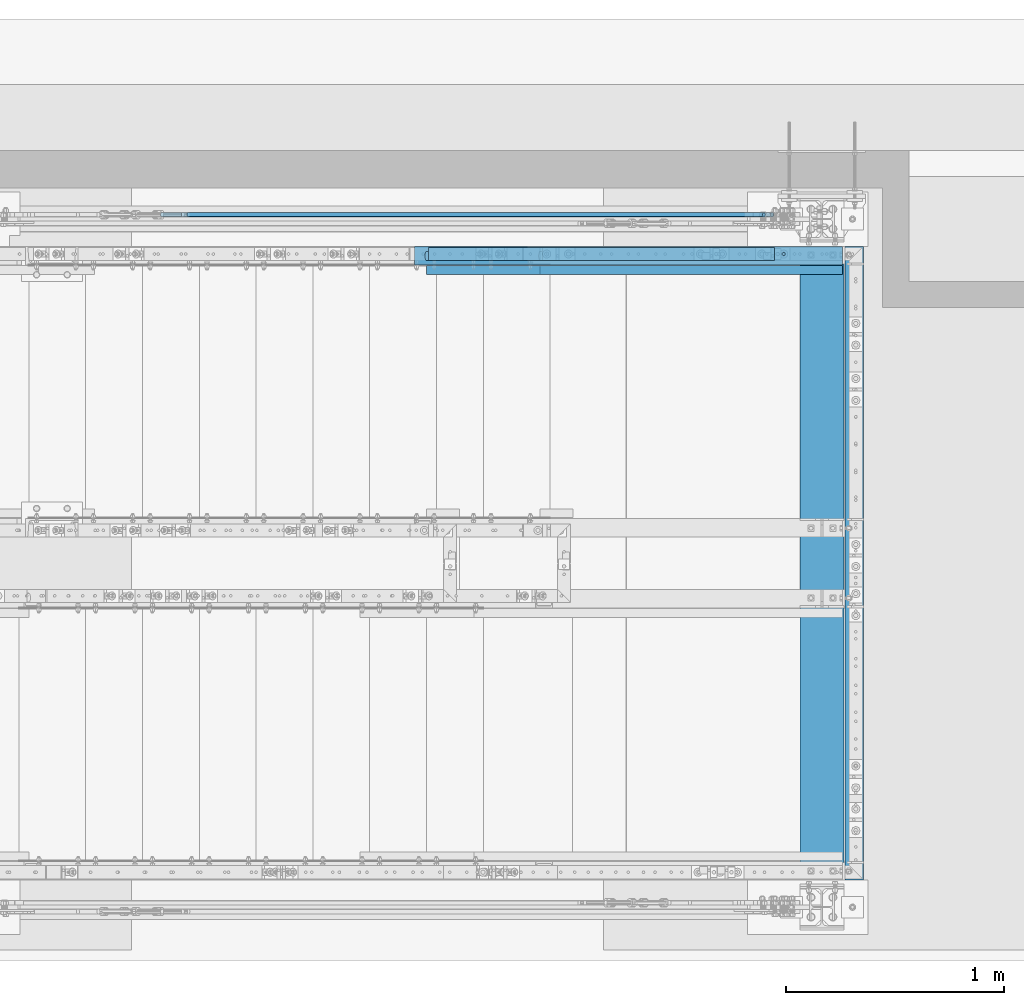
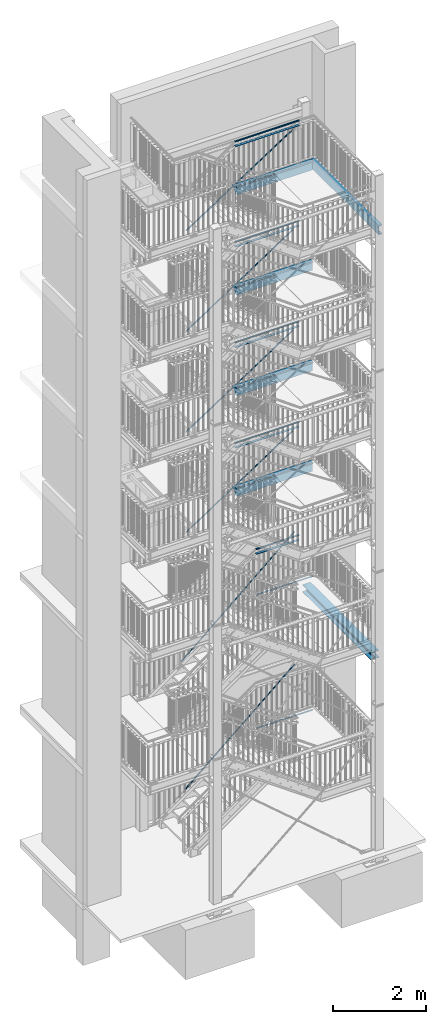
# One storey, part 130 of 825: 22 beams, 6 members, 46 openings.
"""IFC2X3 building model written with IfcOpenShell, lengths in millimetres."""

from ifc_helpers import new_model, entity, si_unit, converted_unit, frame, frame_2d, origin, origin_with_axes, origin_2d, origin_2d_with_axis, place, context, project, spatial, rectangle, circle, hollow_circle, i_section, l_section, u_section, extrude, clip, halfspace, material, element, save


model = new_model("IFC2X3")

# Units and contexts
model_context = context("Model", 3, precision=1e-09, world=origin_with_axes())
ifc_project = project(units=[si_unit("LENGTHUNIT", "METRE", prefix="MILLI"), si_unit("AREAUNIT", "SQUARE_METRE"), si_unit("VOLUMEUNIT", "CUBIC_METRE"), converted_unit("PLANEANGLEUNIT", "DEGREE", entity("IfcPlaneAngleMeasure", 0.01745329), si_unit("PLANEANGLEUNIT", "RADIAN"), dimensions=[0, 0, 0, 0, 0, 0, 0])], contexts=[model_context])

# Site, building, storey
site_placement = place(None, origin_with_axes())
site = spatial("IfcSite", under=ifc_project, at=site_placement, Name="Cnopf'sche Kinderklinik", CompositionType="ELEMENT")
building_placement = place(site_placement, origin_with_axes())
building = spatial("IfcBuilding", under=site, at=building_placement, Name="Struktur 1", CompositionType="ELEMENT")
storey_placement = place(building_placement, origin_with_axes())
storey = spatial("IfcBuildingStorey", under=building, at=storey_placement, Name="Default Storey", CompositionType="ELEMENT", Elevation=0.0)

# Beam
ifc_material = material(Name="S235JR")
beam_1_placement = place(None, frame((7056.713402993, 7292.536971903, 11254.3000003), z_axis=(-1.0, 0.0, 0.0), x_axis=(0.0, 0.0, -1.0)))
element("IfcBeam", 1, at=beam_1_placement, inside=storey, material=ifc_material, Name="TopLanding#3", ObjectType="TopLanding#3", context=model_context, shape_type="SweptSolid", body=[
    extrude(l_section(Depth=40.0, Width=40.0, Thickness=4.0, FilletRadius=6.0, EdgeRadius=3.0, at=frame_2d((8.8, 8.8))), origin(), (0.0, 0.0, -1.0), 1905.0),
])

# Beam, openings
beam_2_placement = place(None, frame((6741.392105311, 7329.036971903, 11145.5000003), z_axis=(1.0, 0.0, 0.0), x_axis=(0.0, 1.0, 0.0)))
beam_2 = element("IfcBeam", 2, at=beam_2_placement, inside=storey, material=ifc_material, Name="Stringer", ObjectType="Stringer", context=model_context, shape_type="Clipping", body=[
    clip(clip(extrude(u_section(Depth=240.0, FlangeWidth=85.0, WebThickness=9.5, FlangeThickness=13.0, FilletRadius=13.0, EdgeRadius=6.5, FlangeSlope=4.574, at=frame_2d((20.2, 0.0))), origin(), (0.0, 0.0, 1.0), 2477.625068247), halfspace(frame((-7329.036971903, -11145.5000003, 2220.320297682), z_axis=(0.0, 0.0, -1.0), x_axis=(-1.0, 0.0, 0.0)), True)), halfspace(frame((-7329.036971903, -8031.601758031, 2894.216134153), z_axis=(0.0, 0.307506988, 0.951545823), x_axis=(1.0, 0.0, 0.0)), True)),
])
opening_1_placement = place(beam_2_placement, frame((27.7, 120.5, 1943.320869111), z_axis=(0.0, 1.0, 0.0), x_axis=(-1.0, 0.0, 0.0)))
element("IfcOpeningElement", 3, at=opening_1_placement, cuts=beam_2, ObjectType="Opening", context=model_context, shape_type="SweptSolid", body=[
    extrude(circle(Radius=7.001, at=frame_2d((0.0, 7.001), x_axis=(1.0, 0.0))), origin(), (0.0, 0.0, -1.0), 14.0),
])
opening_2_placement = place(beam_2_placement, frame((27.7, 120.5, 1843.320869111), z_axis=(0.0, 1.0, 0.0), x_axis=(-1.0, 0.0, 0.0)))
element("IfcOpeningElement", 4, at=opening_2_placement, cuts=beam_2, ObjectType="Opening", context=model_context, shape_type="SweptSolid", body=[
    extrude(circle(Radius=7.001, at=frame_2d((0.0, 7.001), x_axis=(1.0, 0.0))), origin(), (0.0, 0.0, -1.0), 14.0),
])
opening_3_placement = place(beam_2_placement, frame((27.7, 120.5, 958.320726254), z_axis=(0.0, 1.0, 0.0), x_axis=(-1.0, 0.0, 0.0)))
element("IfcOpeningElement", 5, at=opening_3_placement, cuts=beam_2, ObjectType="Opening", context=model_context, shape_type="SweptSolid", body=[
    extrude(circle(Radius=7.001, at=frame_2d((0.0, 7.001), x_axis=(1.0, 0.0))), origin(), (0.0, 0.0, -1.0), 14.0),
])
opening_4_placement = place(beam_2_placement, frame((27.7, 120.5, 858.320726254), z_axis=(0.0, 1.0, 0.0), x_axis=(-1.0, 0.0, 0.0)))
element("IfcOpeningElement", 6, at=opening_4_placement, cuts=beam_2, ObjectType="Opening", context=model_context, shape_type="SweptSolid", body=[
    extrude(circle(Radius=7.001, at=frame_2d((0.0, 7.001), x_axis=(1.0, 0.0))), origin(), (0.0, 0.0, -1.0), 14.0),
])
opening_5_placement = place(beam_2_placement, frame((22.7, -120.5, 2075.321297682), z_axis=(0.0, 1.0, 0.0), x_axis=(1.0, 0.0, 0.0)))
element("IfcOpeningElement", 7, at=opening_5_placement, cuts=beam_2, ObjectType="Opening", context=model_context, shape_type="SweptSolid", body=[
    extrude(circle(Radius=7.001, at=origin_2d_with_axis()), origin(), (0.0, 0.0, 1.0), 14.0),
])
opening_6_placement = place(beam_2_placement, frame((22.7, -120.5, 2175.321297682), z_axis=(0.0, 1.0, 0.0), x_axis=(1.0, 0.0, 0.0)))
element("IfcOpeningElement", 8, at=opening_6_placement, cuts=beam_2, ObjectType="Opening", context=model_context, shape_type="SweptSolid", body=[
    extrude(circle(Radius=7.001, at=origin_2d_with_axis()), origin(), (0.0, 0.0, 1.0), 14.0),
])

beam_3_placement = place(None, frame((6741.459458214, 7329.036971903, 8516.0), z_axis=(1.0, 0.0, 0.0), x_axis=(0.0, 1.0, 0.0)))
beam_3 = element("IfcBeam", 9, at=beam_3_placement, inside=storey, material=ifc_material, Name="Stringer", ObjectType="Stringer", context=model_context, shape_type="Clipping", body=[
    clip(clip(extrude(u_section(Depth=240.0, FlangeWidth=85.0, WebThickness=9.5, FlangeThickness=13.0, FilletRadius=13.0, EdgeRadius=6.5, FlangeSlope=4.574, at=frame_2d((20.2, 0.0))), origin(), (0.0, 0.0, 1.0), 2477.557715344), halfspace(frame((-7329.036971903, -8516.0, 2220.25294478), z_axis=(0.0, 0.0, -1.0), x_axis=(-1.0, 0.0, 0.0)), True)), halfspace(frame((-7329.036971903, -5645.874307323, 2126.143079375), z_axis=(0.0, 0.307936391, 0.951406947), x_axis=(1.0, 0.0, 0.0)), True)),
])
opening_7_placement = place(beam_3_placement, frame((27.7, 120.5, 1943.253516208), z_axis=(0.0, 1.0, 0.0), x_axis=(-1.0, 0.0, 0.0)))
element("IfcOpeningElement", 10, at=opening_7_placement, cuts=beam_3, ObjectType="Opening", context=model_context, shape_type="SweptSolid", body=[
    extrude(circle(Radius=7.001, at=frame_2d((0.0, 7.001), x_axis=(1.0, 0.0))), origin(), (0.0, 0.0, -1.0), 14.0),
])
opening_8_placement = place(beam_3_placement, frame((27.7, 120.5, 1843.253516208), z_axis=(0.0, 1.0, 0.0), x_axis=(-1.0, 0.0, 0.0)))
element("IfcOpeningElement", 11, at=opening_8_placement, cuts=beam_3, ObjectType="Opening", context=model_context, shape_type="SweptSolid", body=[
    extrude(circle(Radius=7.001, at=frame_2d((0.0, 7.001), x_axis=(1.0, 0.0))), origin(), (0.0, 0.0, -1.0), 14.0),
])
opening_9_placement = place(beam_3_placement, frame((27.7, 120.5, 958.253373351), z_axis=(0.0, 1.0, 0.0), x_axis=(-1.0, 0.0, 0.0)))
element("IfcOpeningElement", 12, at=opening_9_placement, cuts=beam_3, ObjectType="Opening", context=model_context, shape_type="SweptSolid", body=[
    extrude(circle(Radius=7.001, at=frame_2d((0.0, 7.001), x_axis=(1.0, 0.0))), origin(), (0.0, 0.0, -1.0), 14.0),
])
opening_10_placement = place(beam_3_placement, frame((27.7, 120.5, 858.253373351), z_axis=(0.0, 1.0, 0.0), x_axis=(-1.0, 0.0, 0.0)))
element("IfcOpeningElement", 13, at=opening_10_placement, cuts=beam_3, ObjectType="Opening", context=model_context, shape_type="SweptSolid", body=[
    extrude(circle(Radius=7.001, at=frame_2d((0.0, 7.001), x_axis=(1.0, 0.0))), origin(), (0.0, 0.0, -1.0), 14.0),
])
opening_11_placement = place(beam_3_placement, frame((22.7, -120.5, 2075.25394478), z_axis=(0.0, 1.0, 0.0), x_axis=(1.0, 0.0, 0.0)))
element("IfcOpeningElement", 14, at=opening_11_placement, cuts=beam_3, ObjectType="Opening", context=model_context, shape_type="SweptSolid", body=[
    extrude(circle(Radius=7.001, at=origin_2d_with_axis()), origin(), (0.0, 0.0, 1.0), 14.0),
])
opening_12_placement = place(beam_3_placement, frame((22.7, -120.5, 2175.25394478), z_axis=(0.0, 1.0, 0.0), x_axis=(1.0, 0.0, 0.0)))
element("IfcOpeningElement", 15, at=opening_12_placement, cuts=beam_3, ObjectType="Opening", context=model_context, shape_type="SweptSolid", body=[
    extrude(circle(Radius=7.001, at=origin_2d_with_axis()), origin(), (0.0, 0.0, 1.0), 14.0),
])

# Beam
beam_4_placement = place(None, frame((7056.713402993, 7292.536971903, 8624.8), z_axis=(-1.0, 0.0, 0.0), x_axis=(0.0, 0.0, -1.0)))
element("IfcBeam", 16, at=beam_4_placement, inside=storey, material=ifc_material, Name="TopLanding#3", ObjectType="TopLanding#3", context=model_context, shape_type="SweptSolid", body=[
    extrude(l_section(Depth=40.0, Width=40.0, Thickness=4.0, FilletRadius=6.0, EdgeRadius=3.0, at=frame_2d((8.8, 8.8))), origin(), (0.0, 0.0, -1.0), 1905.0),
])

# Beam, openings
beam_5_placement = place(None, frame((6741.499671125, 7329.036971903, 13776.5000001), z_axis=(1.0, 0.0, 0.0), x_axis=(0.0, 1.0, 0.0)))
beam_5 = element("IfcBeam", 17, at=beam_5_placement, inside=storey, material=ifc_material, Name="Stringer", ObjectType="Stringer", context=model_context, shape_type="Clipping", body=[
    clip(clip(extrude(u_section(Depth=240.0, FlangeWidth=85.0, WebThickness=9.5, FlangeThickness=13.0, FilletRadius=13.0, EdgeRadius=6.5, FlangeSlope=4.574, at=frame_2d((20.2, 0.0))), origin(), (0.0, 0.0, 1.0), 2477.517502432), halfspace(frame((-7329.036971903, -13776.5000001, 2220.212731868), z_axis=(0.0, 0.0, -1.0), x_axis=(-1.0, 0.0, 0.0)), True)), halfspace(frame((-7329.036971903, -10403.792085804, 3669.278777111), z_axis=(0.0, 0.308193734, 0.951323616), x_axis=(1.0, 0.0, 0.0)), True)),
])
opening_13_placement = place(beam_5_placement, frame((27.7, 120.5, 1943.213303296), z_axis=(0.0, 1.0, 0.0), x_axis=(-1.0, 0.0, 0.0)))
element("IfcOpeningElement", 18, at=opening_13_placement, cuts=beam_5, ObjectType="Opening", context=model_context, shape_type="SweptSolid", body=[
    extrude(circle(Radius=7.001, at=frame_2d((0.0, 7.001), x_axis=(1.0, 0.0))), origin(), (0.0, 0.0, -1.0), 14.0),
])
opening_14_placement = place(beam_5_placement, frame((27.7, 120.5, 1843.213303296), z_axis=(0.0, 1.0, 0.0), x_axis=(-1.0, 0.0, 0.0)))
element("IfcOpeningElement", 19, at=opening_14_placement, cuts=beam_5, ObjectType="Opening", context=model_context, shape_type="SweptSolid", body=[
    extrude(circle(Radius=7.001, at=frame_2d((0.0, 7.001), x_axis=(1.0, 0.0))), origin(), (0.0, 0.0, -1.0), 14.0),
])
opening_15_placement = place(beam_5_placement, frame((27.7, 120.5, 958.213160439), z_axis=(0.0, 1.0, 0.0), x_axis=(-1.0, 0.0, 0.0)))
element("IfcOpeningElement", 20, at=opening_15_placement, cuts=beam_5, ObjectType="Opening", context=model_context, shape_type="SweptSolid", body=[
    extrude(circle(Radius=7.001, at=frame_2d((0.0, 7.001), x_axis=(1.0, 0.0))), origin(), (0.0, 0.0, -1.0), 14.0),
])
opening_16_placement = place(beam_5_placement, frame((27.7, 120.5, 858.213160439), z_axis=(0.0, 1.0, 0.0), x_axis=(-1.0, 0.0, 0.0)))
element("IfcOpeningElement", 21, at=opening_16_placement, cuts=beam_5, ObjectType="Opening", context=model_context, shape_type="SweptSolid", body=[
    extrude(circle(Radius=7.001, at=frame_2d((0.0, 7.001), x_axis=(1.0, 0.0))), origin(), (0.0, 0.0, -1.0), 14.0),
])
opening_17_placement = place(beam_5_placement, frame((22.7, -120.5, 2075.213731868), z_axis=(0.0, 1.0, 0.0), x_axis=(1.0, 0.0, 0.0)))
element("IfcOpeningElement", 22, at=opening_17_placement, cuts=beam_5, ObjectType="Opening", context=model_context, shape_type="SweptSolid", body=[
    extrude(circle(Radius=7.001, at=origin_2d_with_axis()), origin(), (0.0, 0.0, 1.0), 14.0),
])
opening_18_placement = place(beam_5_placement, frame((22.7, -120.5, 2175.213731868), z_axis=(0.0, 1.0, 0.0), x_axis=(1.0, 0.0, 0.0)))
element("IfcOpeningElement", 23, at=opening_18_placement, cuts=beam_5, ObjectType="Opening", context=model_context, shape_type="SweptSolid", body=[
    extrude(circle(Radius=7.001, at=origin_2d_with_axis()), origin(), (0.0, 0.0, 1.0), 14.0),
])

# Beam
beam_6_placement = place(None, frame((7056.713402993, 7292.536971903, 13885.3000001), z_axis=(-1.0, 0.0, 0.0), x_axis=(0.0, 0.0, -1.0)))
element("IfcBeam", 24, at=beam_6_placement, inside=storey, material=ifc_material, Name="TopLanding#3", ObjectType="TopLanding#3", context=model_context, shape_type="SweptSolid", body=[
    extrude(l_section(Depth=40.0, Width=40.0, Thickness=4.0, FilletRadius=6.0, EdgeRadius=3.0, at=frame_2d((8.8, 8.8))), origin(), (0.0, 0.0, -1.0), 1905.0),
])

# Beam, openings
beam_7_placement = place(None, frame((6741.297112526, 7329.036971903, 16404.0000003), z_axis=(1.0, 0.0, 0.0), x_axis=(0.0, 1.0, 0.0)))
beam_7 = element("IfcBeam", 25, at=beam_7_placement, inside=storey, material=ifc_material, Name="Stringer", ObjectType="Stringer", context=model_context, shape_type="Clipping", body=[
    clip(clip(extrude(u_section(Depth=240.0, FlangeWidth=85.0, WebThickness=9.5, FlangeThickness=13.0, FilletRadius=13.0, EdgeRadius=6.5, FlangeSlope=4.574, at=frame_2d((20.2, 0.0))), origin(), (0.0, 0.0, 1.0), 2477.720061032), halfspace(frame((-7329.036971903, -16404.0000003, 2220.415290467), z_axis=(0.0, 0.0, -1.0), x_axis=(-1.0, 0.0, 0.0)), True)), halfspace(frame((-7329.036971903, -12802.606591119, 4426.958467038), z_axis=(0.0, 0.306904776, 0.951740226), x_axis=(1.0, 0.0, 0.0)), True)),
])
opening_19_placement = place(beam_7_placement, frame((27.7, 120.5, 1943.415861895), z_axis=(0.0, 1.0, 0.0), x_axis=(-1.0, 0.0, 0.0)))
element("IfcOpeningElement", 26, at=opening_19_placement, cuts=beam_7, ObjectType="Opening", context=model_context, shape_type="SweptSolid", body=[
    extrude(circle(Radius=7.001, at=frame_2d((0.0, 7.001), x_axis=(1.0, 0.0))), origin(), (0.0, 0.0, -1.0), 14.0),
])
opening_20_placement = place(beam_7_placement, frame((27.7, 120.5, 1843.415861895), z_axis=(0.0, 1.0, 0.0), x_axis=(-1.0, 0.0, 0.0)))
element("IfcOpeningElement", 27, at=opening_20_placement, cuts=beam_7, ObjectType="Opening", context=model_context, shape_type="SweptSolid", body=[
    extrude(circle(Radius=7.001, at=frame_2d((0.0, 7.001), x_axis=(1.0, 0.0))), origin(), (0.0, 0.0, -1.0), 14.0),
])
opening_21_placement = place(beam_7_placement, frame((27.7, 120.5, 958.415719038), z_axis=(0.0, 1.0, 0.0), x_axis=(-1.0, 0.0, 0.0)))
element("IfcOpeningElement", 28, at=opening_21_placement, cuts=beam_7, ObjectType="Opening", context=model_context, shape_type="SweptSolid", body=[
    extrude(circle(Radius=7.001, at=frame_2d((0.0, 7.001), x_axis=(1.0, 0.0))), origin(), (0.0, 0.0, -1.0), 14.0),
])
opening_22_placement = place(beam_7_placement, frame((27.7, 120.5, 858.415719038), z_axis=(0.0, 1.0, 0.0), x_axis=(-1.0, 0.0, 0.0)))
element("IfcOpeningElement", 29, at=opening_22_placement, cuts=beam_7, ObjectType="Opening", context=model_context, shape_type="SweptSolid", body=[
    extrude(circle(Radius=7.001, at=frame_2d((0.0, 7.001), x_axis=(1.0, 0.0))), origin(), (0.0, 0.0, -1.0), 14.0),
])
opening_23_placement = place(beam_7_placement, frame((22.7, -120.5, 2175.416290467), z_axis=(0.0, 1.0, 0.0), x_axis=(1.0, 0.0, 0.0)))
element("IfcOpeningElement", 30, at=opening_23_placement, cuts=beam_7, ObjectType="Opening", context=model_context, shape_type="SweptSolid", body=[
    extrude(circle(Radius=7.001, at=origin_2d_with_axis()), origin(), (0.0, 0.0, 1.0), 14.0),
])
opening_24_placement = place(beam_7_placement, frame((22.7, -120.5, 2075.416290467), z_axis=(0.0, 1.0, 0.0), x_axis=(1.0, 0.0, 0.0)))
element("IfcOpeningElement", 31, at=opening_24_placement, cuts=beam_7, ObjectType="Opening", context=model_context, shape_type="SweptSolid", body=[
    extrude(circle(Radius=7.001, at=origin_2d_with_axis()), origin(), (0.0, 0.0, 1.0), 14.0),
])

# Beam
beam_8_placement = place(None, frame((7056.713402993, 7292.536971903, 16512.8000003), z_axis=(-1.0, 0.0, 0.0), x_axis=(0.0, 0.0, -1.0)))
element("IfcBeam", 32, at=beam_8_placement, inside=storey, material=ifc_material, Name="TopLanding#3", ObjectType="TopLanding#3", context=model_context, shape_type="SweptSolid", body=[
    extrude(l_section(Depth=40.0, Width=40.0, Thickness=4.0, FilletRadius=6.0, EdgeRadius=3.0, at=frame_2d((8.8, 8.8))), origin(), (0.0, 0.0, -1.0), 1905.0),
])

# Members
member_1_placement = place(None, frame((8601.346619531, 7536.736971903, 12070.156818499), z_axis=(0.836491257, 0.0, 0.54798027), x_axis=(-0.54798027, 0.0, 0.836491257)))
element("IfcMember", 33, at=member_1_placement, inside=storey, material=ifc_material, Name="-", ObjectType="-", context=model_context, shape_type="SweptSolid", body=[
    extrude(circle(Radius=11.0, at=origin_2d()), origin(), (0.0, 0.0, -1.0), 3149.75246665),
])
member_2_placement = place(None, frame((8601.589769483, 7536.736971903, 14704.78533918), z_axis=(0.835719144, 0.0, 0.549157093), x_axis=(-0.549157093, 0.0, 0.835719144)))
element("IfcMember", 34, at=member_2_placement, inside=storey, material=ifc_material, Name="-", ObjectType="-", context=model_context, shape_type="SweptSolid", body=[
    extrude(circle(Radius=11.0, at=origin_2d()), origin(), (0.0, 0.0, -1.0), 3154.140224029),
])
member_3_placement = place(None, frame((8601.135141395, 7536.736971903, 17325.480034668), z_axis=(0.837153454, 0.0, 0.546968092), x_axis=(-0.546968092, 0.0, 0.837153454)))
element("IfcMember", 35, at=member_3_placement, inside=storey, material=ifc_material, Name="-", ObjectType="-", context=model_context, shape_type="SweptSolid", body=[
    extrude(circle(Radius=11.0, at=origin_2d()), origin(), (0.0, 0.0, -1.0), 3145.919934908),
])
member_4_placement = place(None, frame((8640.181685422, 7536.736971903, 6788.804321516), z_axis=(0.755906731, 0.0, 0.654679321), x_axis=(-0.654679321, 0.0, 0.755906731)))
element("IfcMember", 36, at=member_4_placement, inside=storey, material=ifc_material, Name="-", ObjectType="-", context=model_context, shape_type="SweptSolid", body=[
    extrude(circle(Radius=11.0, at=origin_2d()), origin(), (0.0, 0.0, -1.0), 3695.891465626),
])
member_5_placement = place(None, frame((8638.256627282, 7536.736971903, 3315.333465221), z_axis=(0.757867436, 0.0, 0.652408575), x_axis=(-0.652408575, 0.0, 0.757867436)))
element("IfcMember", 37, at=member_5_placement, inside=storey, material=ifc_material, Name="-", ObjectType="-", context=model_context, shape_type="SweptSolid", body=[
    extrude(circle(Radius=11.0, at=origin_2d()), origin(), (0.0, 0.0, -1.0), 3558.714022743),
])
member_6_placement = place(None, frame((8601.499143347, 7536.736971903, 9442.923796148), z_axis=(0.836004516, 0.0, 0.548722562), x_axis=(-0.548722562, 0.0, 0.836004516)))
element("IfcMember", 38, at=member_6_placement, inside=storey, material=ifc_material, Name="-", ObjectType="-", context=model_context, shape_type="SweptSolid", body=[
    extrude(circle(Radius=11.0, at=origin_2d()), origin(), (0.0, 0.0, -1.0), 3152.493859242),
])

# Beams
for number, where, z_axis, x_axis, name in (
    (39, (7576.713402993, 7292.536971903, 5663.6947367), (-1.0, 0.0, 0.0), (0.0, 0.0, -1.0), "TopLanding#3"),
    (40, (7576.713402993, 7292.536971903, 2169.8526312), (-1.0, 0.0, 0.0), (0.0, 0.0, -1.0), "TopLanding#3"),
):
    element("IfcBeam", number, at=place(None, frame(where, z_axis=z_axis, x_axis=x_axis)), inside=storey, material=ifc_material, Name=name, ObjectType="TopLanding#3", context=model_context, shape_type="SweptSolid", body=[
        extrude(l_section(Depth=40.0, Width=40.0, Thickness=4.0, FilletRadius=6.0, EdgeRadius=3.0, at=frame_2d((8.8, 8.8))), origin(), (0.0, 0.0, -1.0), 1385.0),
    ])
beam_9_placement = place(None, frame((7066.774372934, 7356.736971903, 17537.8000003), z_axis=(-1.0, 0.0, 0.0), x_axis=(0.0, 0.0, -1.0)))
element("IfcBeam", 41, at=beam_9_placement, inside=storey, material=ifc_material, Name="Railing_Kneerail_Landing#1005", ObjectType="Railing_Kneerail_Landing#1005", context=model_context, shape_type="SweptSolid", body=[
    extrude(rectangle(XDim=10.0, YDim=60.0, at=origin_2d()), origin(), (0.0, 0.0, -1.0), 1582.439601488),
])
beam_10_placement = place(None, frame((7025.211816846, 7347.936971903, 17664.0000003), z_axis=(-1.0, 0.0, 0.0), x_axis=(0.0, 0.0, -1.0)))
element("IfcBeam", 42, at=beam_10_placement, inside=storey, material=ifc_material, Name="Railing_Handrail_Landing#4", ObjectType="Railing_Handrail_Landing#4", context=model_context, shape_type="Clipping", body=[
    clip(extrude(hollow_circle(Radius=21.2, WallThickness=3.2, at=origin_2d()), origin(), (0.0, 0.0, -1.0), 1624.002157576), halfspace(frame((13938.996995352, 7347.936971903, -4526.368604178), z_axis=(-0.306904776, 0.0, -0.951740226), x_axis=(0.0, -1.0, 0.0)), True)),
])
beam_11_placement = place(None, frame((7066.821051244, 7356.736971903, 14910.3000001), z_axis=(-1.0, 0.0, 0.0), x_axis=(0.0, 0.0, -1.0)))
element("IfcBeam", 43, at=beam_11_placement, inside=storey, material=ifc_material, Name="Railing_Kneerail_Landing#1005", ObjectType="Railing_Kneerail_Landing#1005", context=model_context, shape_type="SweptSolid", body=[
    extrude(rectangle(XDim=10.0, YDim=60.0, at=origin_2d()), origin(), (0.0, 0.0, -1.0), 1582.392923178),
])
beam_12_placement = place(None, frame((7025.198020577, 7347.936971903, 15036.5000001), z_axis=(-1.0, 0.0, 0.0), x_axis=(0.0, 0.0, -1.0)))
element("IfcBeam", 44, at=beam_12_placement, inside=storey, material=ifc_material, Name="Railing_Handrail_Landing#4", ObjectType="Railing_Handrail_Landing#4", context=model_context, shape_type="Clipping", body=[
    clip(extrude(hollow_circle(Radius=21.2, WallThickness=3.2, at=origin_2d()), origin(), (0.0, 0.0, -1.0), 1624.015953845), halfspace(frame((11539.310370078, 7347.936971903, -3769.827031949), z_axis=(-0.308193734, 0.0, -0.951323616), x_axis=(0.0, -1.0, 0.0)), True)),
])
beam_13_placement = place(None, frame((7066.796173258, 7356.736971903, 12279.3000003), z_axis=(-1.0, 0.0, 0.0), x_axis=(0.0, 0.0, -1.0)))
element("IfcBeam", 45, at=beam_13_placement, inside=storey, material=ifc_material, Name="Railing_Kneerail_Landing#1005", ObjectType="Railing_Kneerail_Landing#1005", context=model_context, shape_type="SweptSolid", body=[
    extrude(rectangle(XDim=10.0, YDim=60.0, at=origin_2d()), origin(), (0.0, 0.0, -1.0), 1582.417801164),
])
beam_14_placement = place(None, frame((7025.205380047, 7347.936971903, 12405.5000003), z_axis=(-1.0, 0.0, 0.0), x_axis=(0.0, 0.0, -1.0)))
element("IfcBeam", 46, at=beam_14_placement, inside=storey, material=ifc_material, Name="Railing_Handrail_Landing#4", ObjectType="Railing_Handrail_Landing#4", context=model_context, shape_type="Clipping", body=[
    clip(extrude(hollow_circle(Radius=21.2, WallThickness=3.2, at=origin_2d()), origin(), (0.0, 0.0, -1.0), 1624.008594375), halfspace(frame((9167.585155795, 7347.936971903, -2994.158300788), z_axis=(-0.307506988, 0.0, -0.951545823), x_axis=(0.0, -1.0, 0.0)), True)),
])
beam_15_placement = place(None, frame((7066.811726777, 7356.736971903, 9649.8), z_axis=(-1.0, 0.0, 0.0), x_axis=(0.0, 0.0, -1.0)))
element("IfcBeam", 47, at=beam_15_placement, inside=storey, material=ifc_material, Name="Railing_Kneerail_Landing#1005", ObjectType="Railing_Kneerail_Landing#1005", context=model_context, shape_type="SweptSolid", body=[
    extrude(rectangle(XDim=10.0, YDim=60.0, at=origin_2d()), origin(), (0.0, 0.0, -1.0), 1582.402247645),
])
beam_16_placement = place(None, frame((7025.200780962, 7347.936971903, 9776.0), z_axis=(-1.0, 0.0, 0.0), x_axis=(0.0, 0.0, -1.0)))
element("IfcBeam", 48, at=beam_16_placement, inside=storey, material=ifc_material, Name="Railing_Handrail_Landing#4", ObjectType="Railing_Handrail_Landing#4", context=model_context, shape_type="Clipping", body=[
    clip(extrude(hollow_circle(Radius=21.2, WallThickness=3.2, at=origin_2d()), origin(), (0.0, 0.0, -1.0), 1624.013193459), halfspace(frame((6781.567004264, 7347.936971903, -2226.46429398), z_axis=(-0.307936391, 0.0, -0.951406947), x_axis=(0.0, -1.0, 0.0)), True)),
])
beam_17_placement = place(None, frame((7586.583247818, 7356.736971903, 6688.6947367), z_axis=(-1.0, 0.0, 0.0), x_axis=(0.0, 0.0, -1.0)))
element("IfcBeam", 49, at=beam_17_placement, inside=storey, material=ifc_material, Name="Railing_Kneerail_Landing#1005", ObjectType="Railing_Kneerail_Landing#1005", context=model_context, shape_type="SweptSolid", body=[
    extrude(rectangle(XDim=10.0, YDim=60.0, at=origin_2d()), origin(), (0.0, 0.0, -1.0), 1062.630726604),
])
beam_18_placement = place(None, frame((7545.267696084, 7347.936971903, 6814.8947367), z_axis=(-1.0, 0.0, 0.0), x_axis=(0.0, 0.0, -1.0)))
element("IfcBeam", 50, at=beam_18_placement, inside=storey, material=ifc_material, Name="Railing_Handrail_Landing#4", ObjectType="Railing_Handrail_Landing#4", context=model_context, shape_type="Clipping", body=[
    clip(extrude(hollow_circle(Radius=21.2, WallThickness=3.2, at=origin_2d()), origin(), (0.0, 0.0, -1.0), 1103.946278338), halfspace(frame((4016.163485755, 7347.936971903, -1301.924645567), z_axis=(-0.301609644, 0.0, -0.953431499), x_axis=(0.0, -1.0, 0.0)), True)),
])

# Beam, openings
beam_19_placement = place(None, frame((8994.013402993, 7391.736971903, 16404.0000003), z_axis=(0.0, -1.0, 0.0), x_axis=(1.0, 0.0, 0.0)))
beam_19 = element("IfcBeam", 51, at=beam_19_placement, inside=storey, material=ifc_material, Name="Girder", ObjectType="Girder", context=model_context, shape_type="SweptSolid", body=[
    extrude(u_section(Depth=240.0, FlangeWidth=85.0, WebThickness=9.5, FlangeThickness=13.0, FilletRadius=13.0, EdgeRadius=6.5, FlangeSlope=4.574, at=frame_2d((20.2, 0.0))), origin(), (0.0, 0.0, 1.0), 2900.0),
])
opening_25_placement = place(beam_19_placement, frame((27.7, 120.5, 2668.0), z_axis=(0.0, 1.0, 0.0), x_axis=(-1.0, 0.0, 0.0)))
element("IfcOpeningElement", 52, at=opening_25_placement, cuts=beam_19, ObjectType="Opening", context=model_context, shape_type="SweptSolid", body=[
    extrude(circle(Radius=7.001, at=frame_2d((0.0, 7.001), x_axis=(1.0, 0.0))), origin(), (0.0, 0.0, -1.0), 14.0),
])
opening_26_placement = place(beam_19_placement, frame((27.7, 120.5, 2568.0), z_axis=(0.0, 1.0, 0.0), x_axis=(-1.0, 0.0, 0.0)))
element("IfcOpeningElement", 53, at=opening_26_placement, cuts=beam_19, ObjectType="Opening", context=model_context, shape_type="SweptSolid", body=[
    extrude(circle(Radius=7.001, at=frame_2d((0.0, 7.001), x_axis=(1.0, 0.0))), origin(), (0.0, 0.0, -1.0), 14.0),
])
opening_27_placement = place(beam_19_placement, frame((27.7, 120.5, 1682.999857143), z_axis=(0.0, 1.0, 0.0), x_axis=(-1.0, 0.0, 0.0)))
element("IfcOpeningElement", 54, at=opening_27_placement, cuts=beam_19, ObjectType="Opening", context=model_context, shape_type="SweptSolid", body=[
    extrude(circle(Radius=7.001, at=frame_2d((0.0, 7.001), x_axis=(1.0, 0.0))), origin(), (0.0, 0.0, -1.0), 14.0),
])
opening_28_placement = place(beam_19_placement, frame((27.7, 120.5, 1582.999857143), z_axis=(0.0, 1.0, 0.0), x_axis=(-1.0, 0.0, 0.0)))
element("IfcOpeningElement", 55, at=opening_28_placement, cuts=beam_19, ObjectType="Opening", context=model_context, shape_type="SweptSolid", body=[
    extrude(circle(Radius=7.001, at=frame_2d((0.0, 7.001), x_axis=(1.0, 0.0))), origin(), (0.0, 0.0, -1.0), 14.0),
])
opening_29_placement = place(beam_19_placement, frame((27.7, 120.5, 697.999714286), z_axis=(0.0, 1.0, 0.0), x_axis=(-1.0, 0.0, 0.0)))
element("IfcOpeningElement", 56, at=opening_29_placement, cuts=beam_19, ObjectType="Opening", context=model_context, shape_type="SweptSolid", body=[
    extrude(circle(Radius=7.001, at=frame_2d((0.0, 7.001), x_axis=(1.0, 0.0))), origin(), (0.0, 0.0, -1.0), 14.0),
])
opening_30_placement = place(beam_19_placement, frame((27.7, 120.5, 597.999714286), z_axis=(0.0, 1.0, 0.0), x_axis=(-1.0, 0.0, 0.0)))
element("IfcOpeningElement", 57, at=opening_30_placement, cuts=beam_19, ObjectType="Opening", context=model_context, shape_type="SweptSolid", body=[
    extrude(circle(Radius=7.001, at=frame_2d((0.0, 7.001), x_axis=(1.0, 0.0))), origin(), (0.0, 0.0, -1.0), 14.0),
])
opening_31_placement = place(beam_19_placement, frame((-12.3, 50.999, 2860.0), z_axis=(1.0, 0.0, 0.0), x_axis=(0.0, 1.0, 0.0)))
element("IfcOpeningElement", 58, at=opening_31_placement, cuts=beam_19, ObjectType="Opening", context=model_context, shape_type="SweptSolid", body=[
    extrude(circle(Radius=9.001, at=frame_2d((9.001, 0.0), x_axis=(1.0, 0.0))), origin(), (0.0, 0.0, -1.0), 10.5),
])
opening_32_placement = place(beam_19_placement, frame((-12.3, -69.001, 2860.0), z_axis=(1.0, 0.0, 0.0), x_axis=(0.0, 1.0, 0.0)))
element("IfcOpeningElement", 59, at=opening_32_placement, cuts=beam_19, ObjectType="Opening", context=model_context, shape_type="SweptSolid", body=[
    extrude(circle(Radius=9.001, at=frame_2d((9.001, 0.0), x_axis=(1.0, 0.0))), origin(), (0.0, 0.0, -1.0), 10.5),
])
opening_33_placement = place(beam_19_placement, frame((-12.3, 50.999, 1290.0), z_axis=(1.0, 0.0, 0.0), x_axis=(0.0, 1.0, 0.0)))
element("IfcOpeningElement", 60, at=opening_33_placement, cuts=beam_19, ObjectType="Opening", context=model_context, shape_type="SweptSolid", body=[
    extrude(circle(Radius=9.001, at=frame_2d((9.001, 0.0), x_axis=(1.0, 0.0))), origin(), (0.0, 0.0, -1.0), 10.5),
])
opening_34_placement = place(beam_19_placement, frame((-12.3, -69.001, 1290.0), z_axis=(1.0, 0.0, 0.0), x_axis=(0.0, 1.0, 0.0)))
element("IfcOpeningElement", 61, at=opening_34_placement, cuts=beam_19, ObjectType="Opening", context=model_context, shape_type="SweptSolid", body=[
    extrude(circle(Radius=9.001, at=frame_2d((9.001, 0.0), x_axis=(1.0, 0.0))), origin(), (0.0, 0.0, -1.0), 10.5),
])
opening_35_placement = place(beam_19_placement, frame((-12.3, 0.0, 40.0), z_axis=(-1.0, 0.0, 0.0), x_axis=(0.0, 1.0, 0.0)))
element("IfcOpeningElement", 62, at=opening_35_placement, cuts=beam_19, ObjectType="Opening", context=model_context, shape_type="SweptSolid", body=[
    extrude(circle(Radius=9.001, at=frame_2d((60.0, 0.0), x_axis=(1.0, 0.0))), origin(), (0.0, 0.0, 1.0), 10.5),
])
opening_36_placement = place(beam_19_placement, frame((-12.3, 0.0, 40.0), z_axis=(-1.0, 0.0, 0.0), x_axis=(0.0, 1.0, 0.0)))
element("IfcOpeningElement", 63, at=opening_36_placement, cuts=beam_19, ObjectType="Opening", context=model_context, shape_type="SweptSolid", body=[
    extrude(circle(Radius=9.001, at=frame_2d((-60.0, 0.0), x_axis=(1.0, 0.0))), origin(), (0.0, 0.0, 1.0), 10.5),
])
opening_37_placement = place(beam_19_placement, frame((-12.3, 0.0, 1610.0), z_axis=(-1.0, 0.0, 0.0), x_axis=(0.0, 1.0, 0.0)))
element("IfcOpeningElement", 64, at=opening_37_placement, cuts=beam_19, ObjectType="Opening", context=model_context, shape_type="SweptSolid", body=[
    extrude(circle(Radius=9.001, at=frame_2d((60.0, 0.0), x_axis=(1.0, 0.0))), origin(), (0.0, 0.0, 1.0), 10.5),
])
opening_38_placement = place(beam_19_placement, frame((-12.3, 0.0, 1610.0), z_axis=(-1.0, 0.0, 0.0), x_axis=(0.0, 1.0, 0.0)))
element("IfcOpeningElement", 65, at=opening_38_placement, cuts=beam_19, ObjectType="Opening", context=model_context, shape_type="SweptSolid", body=[
    extrude(circle(Radius=9.001, at=frame_2d((-60.0, 0.0), x_axis=(1.0, 0.0))), origin(), (0.0, 0.0, 1.0), 10.5),
])

beam_20_placement = place(None, frame((8866.713402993, 7559.668114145, 5339.8947367), z_axis=(0.0, -1.0, 0.0), x_axis=(-1.0, 0.0, 0.0)))
beam_20 = element("IfcBeam", 66, at=beam_20_placement, inside=storey, material=ifc_material, Name="Girder", ObjectType="Girder", context=model_context, shape_type="Clipping", body=[
    clip(clip(extrude(i_section(OverallWidth=200.0, OverallDepth=190.0, WebThickness=6.5, FlangeThickness=10.0, FilletRadius=18.0, at=origin_2d()), origin(), (0.0, 0.0, 1.0), 3235.862284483), halfspace(frame((8866.713402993, 5339.8947367, 3087.930142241), z_axis=(0.0, 0.0, -1.0), x_axis=(1.0, 0.0, 0.0)), True)), halfspace(frame((8866.713402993, 5339.8947367, 147.932142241), z_axis=(0.0, 0.0, 1.0), x_axis=(-1.0, 0.0, 0.0)), True)),
])
opening_39_placement = place(beam_20_placement, frame((50.0, -84.5, 1784.932142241), z_axis=(0.0, 1.0, 0.0), x_axis=(-1.0, 0.0, 0.0)))
element("IfcOpeningElement", 67, at=opening_39_placement, cuts=beam_20, ObjectType="Opening", context=model_context, shape_type="SweptSolid", body=[
    extrude(circle(Radius=7.001, at=frame_2d((0.0, -7.001), x_axis=(1.0, 0.0))), origin(), (0.0, 0.0, -1.0), 11.0),
])
opening_40_placement = place(beam_20_placement, frame((50.0, -84.5, 3034.932142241), z_axis=(0.0, 1.0, 0.0), x_axis=(-1.0, 0.0, 0.0)))
element("IfcOpeningElement", 68, at=opening_40_placement, cuts=beam_20, ObjectType="Opening", context=model_context, shape_type="SweptSolid", body=[
    extrude(circle(Radius=7.001, at=frame_2d((0.0, -7.001), x_axis=(1.0, 0.0))), origin(), (0.0, 0.0, -1.0), 11.0),
])
opening_41_placement = place(beam_20_placement, frame((-50.0, -84.5, 1457.931142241), z_axis=(0.0, -1.0, 0.0), x_axis=(0.0, 0.0, -1.0)))
element("IfcOpeningElement", 69, at=opening_41_placement, cuts=beam_20, ObjectType="Opening", context=model_context, shape_type="SweptSolid", body=[
    extrude(circle(Radius=7.001, at=origin_2d_with_axis()), origin(), (0.0, 0.0, 1.0), 11.0),
])
opening_42_placement = place(beam_20_placement, frame((-50.0, -84.5, 3034.932142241), z_axis=(0.0, 1.0, 0.0), x_axis=(-1.0, 0.0, 0.0)))
element("IfcOpeningElement", 70, at=opening_42_placement, cuts=beam_20, ObjectType="Opening", context=model_context, shape_type="SweptSolid", body=[
    extrude(circle(Radius=7.001, at=frame_2d((0.0, -7.001), x_axis=(1.0, 0.0))), origin(), (0.0, 0.0, -1.0), 11.0),
])
opening_43_placement = place(beam_20_placement, frame((-50.0, -84.5, 1784.932142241), z_axis=(0.0, 1.0, 0.0), x_axis=(-1.0, 0.0, 0.0)))
element("IfcOpeningElement", 71, at=opening_43_placement, cuts=beam_20, ObjectType="Opening", context=model_context, shape_type="SweptSolid", body=[
    extrude(circle(Radius=7.001, at=frame_2d((0.0, -7.001), x_axis=(1.0, 0.0))), origin(), (0.0, 0.0, -1.0), 11.0),
])
opening_44_placement = place(beam_20_placement, frame((-50.0, -84.5, 207.931142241), z_axis=(0.0, -1.0, 0.0), x_axis=(0.0, 0.0, -1.0)))
element("IfcOpeningElement", 72, at=opening_44_placement, cuts=beam_20, ObjectType="Opening", context=model_context, shape_type="SweptSolid", body=[
    extrude(circle(Radius=7.001, at=origin_2d_with_axis()), origin(), (0.0, 0.0, 1.0), 11.0),
])
opening_45_placement = place(beam_20_placement, frame((50.0, -84.5, 1457.931142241), z_axis=(0.0, -1.0, 0.0), x_axis=(0.0, 0.0, -1.0)))
element("IfcOpeningElement", 73, at=opening_45_placement, cuts=beam_20, ObjectType="Opening", context=model_context, shape_type="SweptSolid", body=[
    extrude(circle(Radius=7.001, at=origin_2d_with_axis()), origin(), (0.0, 0.0, 1.0), 11.0),
])
opening_46_placement = place(beam_20_placement, frame((50.0, -84.5, 207.931142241), z_axis=(0.0, -1.0, 0.0), x_axis=(0.0, 0.0, -1.0)))
element("IfcOpeningElement", 74, at=opening_46_placement, cuts=beam_20, ObjectType="Opening", context=model_context, shape_type="SweptSolid", body=[
    extrude(circle(Radius=7.001, at=origin_2d_with_axis()), origin(), (0.0, 0.0, 1.0), 11.0),
])

save(model, "model.ifc")
